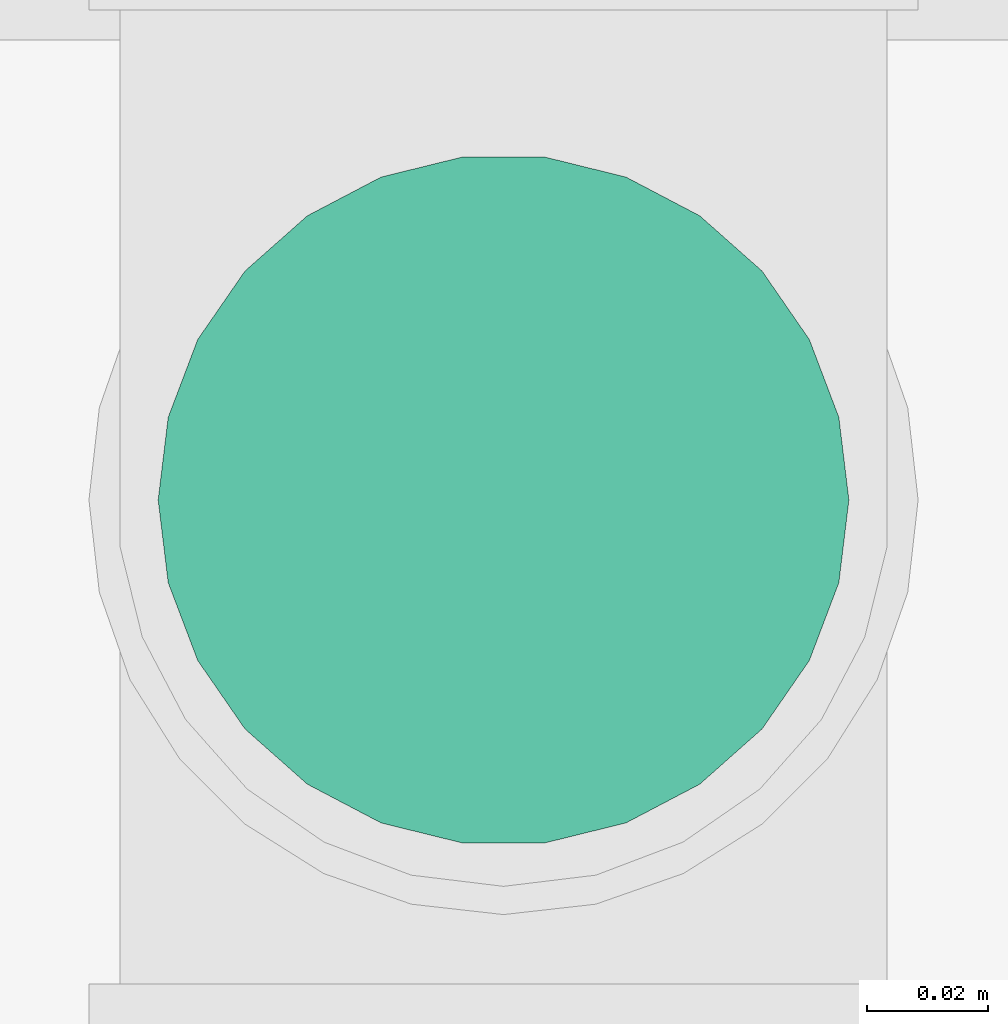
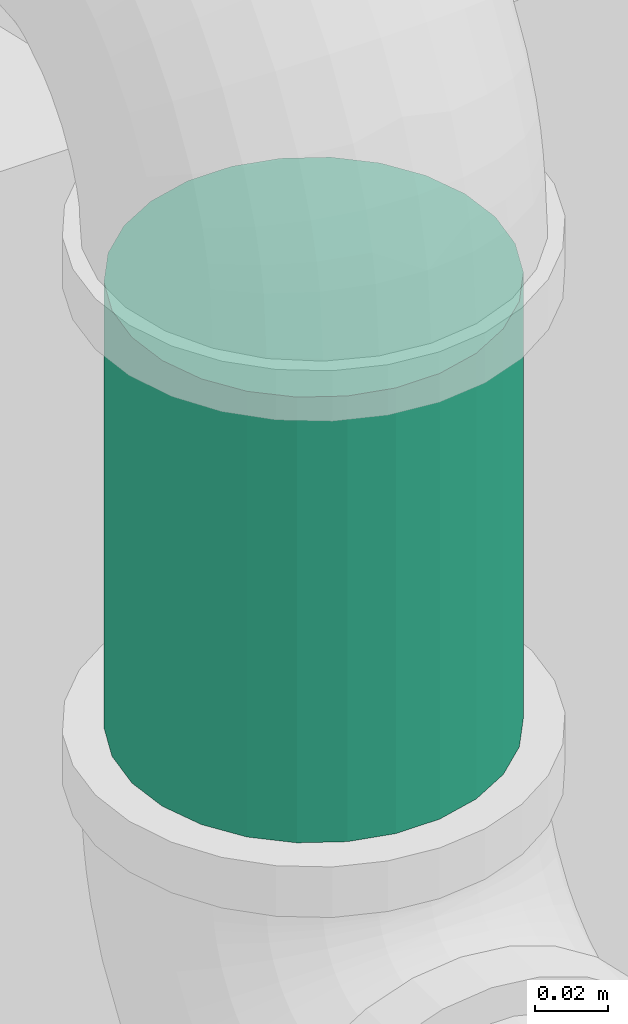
# One storey, part 65 of 108: 1 pipe segment.
"""IFC4 building model written with IfcOpenShell, lengths in feet."""

from ifc_helpers import new_model, entity, si_unit, converted_unit, derived_unit, direction, frame, origin, origin_2d_with_axis, place, context, subcontext, project, spatial, circle, extrude, type_object, element, save


model = new_model("IFC4")

# Units and contexts
model_context = context("Model", 3, precision=0.0001, world=origin(), true_north=direction((6.12303176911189e-17, 1.0)))
body_context = subcontext(model_context, "Body", "Model", "MODEL_VIEW")
ifc_project = project(units=[converted_unit("LENGTHUNIT", "FOOT", entity("IfcRatioMeasure", 0.3048), si_unit("LENGTHUNIT", "METRE"), dimensions=[1, 0, 0, 0, 0, 0, 0]), converted_unit("AREAUNIT", "SQUARE FOOT", entity("IfcRatioMeasure", 0.09290304), si_unit("AREAUNIT", "SQUARE_METRE"), dimensions=[2, 0, 0, 0, 0, 0, 0]), converted_unit("VOLUMEUNIT", "CUBIC FOOT", entity("IfcRatioMeasure", 0.028316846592), si_unit("VOLUMEUNIT", "CUBIC_METRE"), dimensions=[3, 0, 0, 0, 0, 0, 0]), converted_unit("PLANEANGLEUNIT", "DEGREE", entity("IfcRatioMeasure", 0.0174532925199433), si_unit("PLANEANGLEUNIT", "RADIAN"), dimensions=[0, 0, 0, 0, 0, 0, 0]), si_unit("MASSUNIT", "GRAM", prefix="KILO"), derived_unit("MASSDENSITYUNIT", [(si_unit("MASSUNIT", "GRAM", prefix="KILO"), 1), (si_unit("LENGTHUNIT", "METRE"), -3)]), si_unit("TIMEUNIT", "SECOND"), si_unit("FREQUENCYUNIT", "HERTZ"), si_unit("THERMODYNAMICTEMPERATUREUNIT", "DEGREE_CELSIUS"), derived_unit("THERMALTRANSMITTANCEUNIT", [(si_unit("MASSUNIT", "GRAM", prefix="KILO"), 1), (si_unit("THERMODYNAMICTEMPERATUREUNIT", "KELVIN"), -1), (si_unit("TIMEUNIT", "SECOND"), -3)]), derived_unit("VOLUMETRICFLOWRATEUNIT", [(si_unit("LENGTHUNIT", "METRE"), 3), (si_unit("TIMEUNIT", "SECOND"), -1)]), si_unit("ELECTRICCURRENTUNIT", "AMPERE"), si_unit("ELECTRICVOLTAGEUNIT", "VOLT"), si_unit("POWERUNIT", "WATT"), si_unit("FORCEUNIT", "NEWTON"), si_unit("ILLUMINANCEUNIT", "LUX"), si_unit("LUMINOUSFLUXUNIT", "LUMEN"), si_unit("LUMINOUSINTENSITYUNIT", "CANDELA"), derived_unit("USERDEFINED", [(si_unit("MASSUNIT", "GRAM", prefix="KILO"), -1), (si_unit("LENGTHUNIT", "METRE"), -2), (si_unit("TIMEUNIT", "SECOND"), 3), (si_unit("LUMINOUSFLUXUNIT", "LUMEN"), 1)]), derived_unit("LINEARVELOCITYUNIT", [(si_unit("LENGTHUNIT", "METRE"), 1), (si_unit("TIMEUNIT", "SECOND"), -1)]), si_unit("PRESSUREUNIT", "PASCAL"), derived_unit("USERDEFINED", [(si_unit("LENGTHUNIT", "METRE"), -2), (si_unit("MASSUNIT", "GRAM", prefix="KILO"), 1), (si_unit("TIMEUNIT", "SECOND"), -2)])], contexts=[model_context])

# Site, building, storey
site_placement = place(None, origin())
site = spatial("IfcSite", under=ifc_project, at=site_placement, Name="Default", CompositionType="ELEMENT")
building_placement = place(site_placement, origin())
building = spatial("IfcBuilding", under=site, at=building_placement, CompositionType="ELEMENT")
storey_placement = place(building_placement, frame((0.0, 0.0, 168.0)))
storey = spatial("IfcBuildingStorey", under=building, at=storey_placement, Name="Level 15", CompositionType="ELEMENT", Elevation=168.0)

# Pipe segment
pipe_segment_type = type_object("IfcPipeSegmentType", Name="Pipe Types:Hydronic", PredefinedType="NOTDEFINED")
pipe_segment_placement = place(storey_placement, frame((-31.4920826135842, 5.43404962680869, 9.86277343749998)))
element("IfcPipeSegment", 1, at=pipe_segment_placement, inside=storey, type_object=pipe_segment_type, Name="Pipe Types:Hydronic", ObjectType="Pipe Types:Hydronic", PredefinedType="NOTDEFINED", context=body_context, shape_type="SweptSolid", body=[
    extrude(circle(Radius=0.1875, at=origin_2d_with_axis()), frame((0.192733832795, 0.192733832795, 0.0), z_axis=(0.0, 0.0, 1.0), x_axis=(-1.0, 0.0, 0.0)), (0.0, 0.0, 1.0), 0.485950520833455),
])

save(model, "model.ifc")
